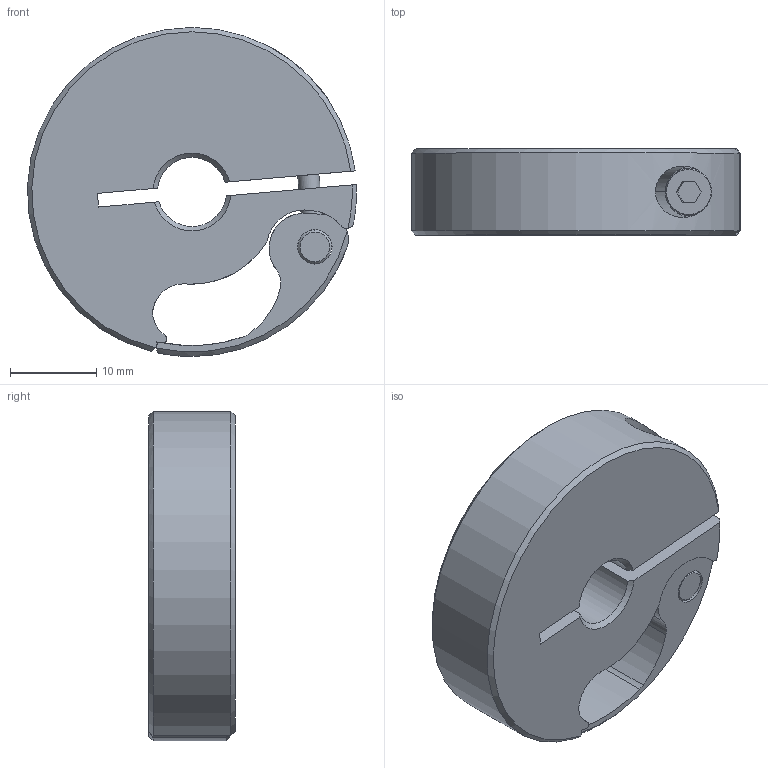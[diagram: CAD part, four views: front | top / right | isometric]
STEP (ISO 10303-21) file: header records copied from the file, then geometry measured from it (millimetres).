
FILE_DESCRIPTION((''),'2;1');
FILE_NAME('MQCL-8-A','2016-09-09T',('SYSTEM'),(''),'PRO/ENGINEER BY PARAMETRIC TECHNOLOGY CORPORATION, 2015110','PRO/ENGINEER BY PARAMETRIC TECHNOLOGY CORPORATION, 2015110','');
FILE_SCHEMA(('AUTOMOTIVE_DESIGN { 1 0 10303 214 1 1 1 1 }'));
Length unit declared in the file: metre
Products named in the file (1): MQCL-8-A
Bounding box: 38.08 x 10 x 38.1 mm (x, y, z)
Volume: 9004.5 mm3; surface area: 4865.7 mm2
Topology: 1 solids, 1 shells, 93 faces, 289 edges, 196 vertices
Faces by surface type: cylinder 47, plane 29, cone 17
Entity records: 4049 total; most frequent: CARTESIAN_POINT 975, ORIENTED_EDGE 578, DIRECTION 545, EDGE_CURVE 289, AXIS2_PLACEMENT_3D 215, VERTEX_POINT 196, CIRCLE 122, VECTOR 115
